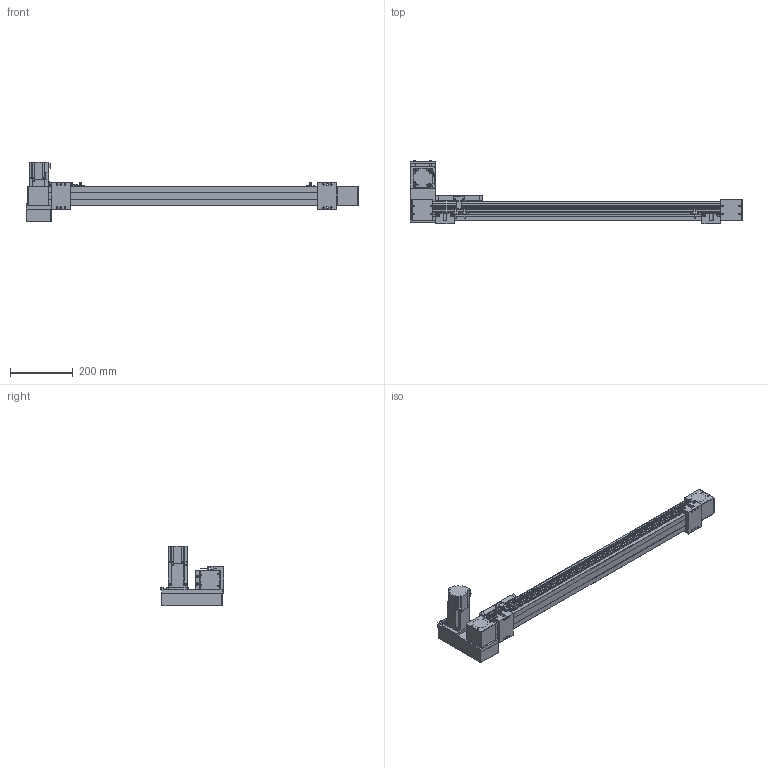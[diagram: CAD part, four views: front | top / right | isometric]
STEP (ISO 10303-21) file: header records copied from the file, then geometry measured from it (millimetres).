
FILE_DESCRIPTION(/* description */ ('STEP AP214'),/* implementation_level */ '2;1');
FILE_NAME(/* name */ 'SK60-P13-S750-LU-T40-C1-N(0)',/* time_stamp */ '2023-04-06T04:47:32+02:00',/* author */ ('License CC BY-ND 4.0'),/* organization */ ('CADENAS'),/* preprocessor_version */ 'ST-DEVELOPER v19.3',/* originating_system */ 'PARTsolutions',/* authorisation */ ' ');
FILE_SCHEMA (('AUTOMOTIVE_DESIGN {1 0 10303 214 3 1 1}'));
Length unit declared in the file: millimetre
Products named in the file (10): SK60-P13-S750-LU-T40-C1-N(0); PSC140-sensor; SK60-S450_seat; SK60-S450-BL-C1_slider; SK60_body3; SK60_body6; SK60-BL_body2; T40-p1; SK60-LU_fb; SK60-S750-LU-C1_body
Assembly tree (16 placements, depth 2):
  SK60-P13-S750-LU-T40-C1-N(0)
    PSC140-sensor  x3
    SK60-S450_seat  x2
    SK60-S450-BL-C1_slider
    SK60_body3  x3
    SK60_body6  x2
    SK60-BL_body2  x2
    T40-p1
    SK60-LU_fb
    SK60-S750-LU-C1_body
Bounding box: 1055.5 x 201 x 189.7 mm (x, y, z)
Volume: 4780641.4 mm3; surface area: 613511.2 mm2
Topology: 16 solids, 16 shells, 810 faces, 2048 edges, 1349 vertices
Faces by surface type: plane 524, cylinder 262, cone 22, torus 2
Full cylindrical faces by diameter (mm): 2.8 x3, 3.3 x4, 4 x2, 4.5 x30, 4.6 x3, 4.917 x16, 5 x6, 5.478 x4, 5.5 x19, 6.5 x4, 7 x2, 8 x4, 8.5 x4, 9.988 x4, 10 x8, 14 x1, 47 x3, 50 x2
Entity records: 18655 total; most frequent: DIRECTION 3184, CARTESIAN_POINT 3150, ORIENTED_EDGE 2940, EDGE_CURVE 1470, AXIS2_PLACEMENT_3D 1068, LINE 1048, VECTOR 1048, VERTEX_POINT 1034
